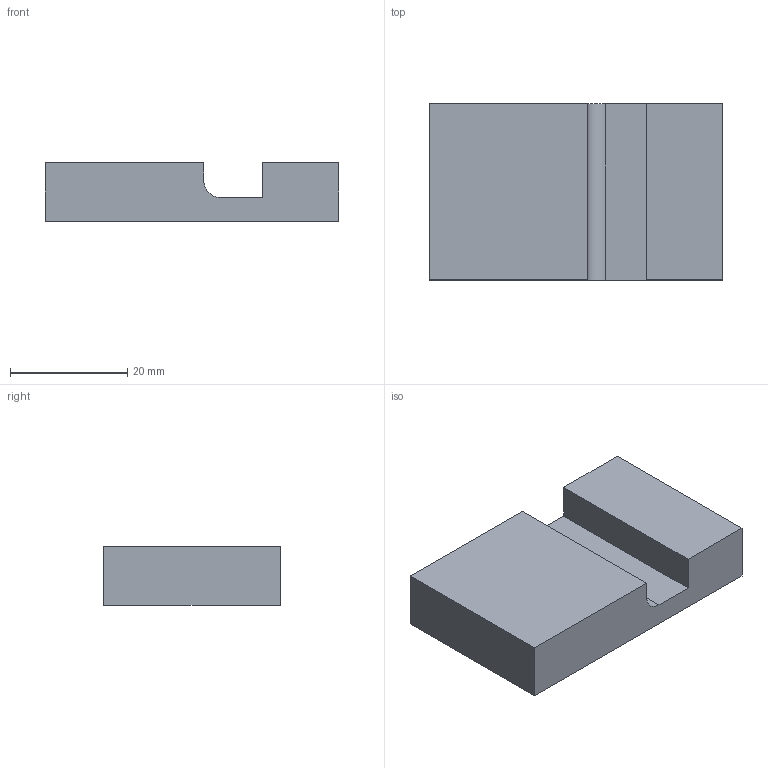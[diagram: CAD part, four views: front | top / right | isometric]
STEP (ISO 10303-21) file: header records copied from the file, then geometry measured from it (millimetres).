
FILE_DESCRIPTION(('FreeCAD Model'),'2;1');
FILE_NAME('/home/alexandre/Bureau/Cours-FreeCAD/Exercices/Exo-7.step', '2016-05-29T16:20:44',('Almisuifre'),(''), 'Open CASCADE STEP processor 6.8','FreeCAD','Unknown');
FILE_SCHEMA(('AUTOMOTIVE_DESIGN_CC2 { 1 2 10303 214 -1 1 5 4 }'));
Length unit declared in the file: millimetre
Products named in the file (2): ASSEMBLY; Cut
Assembly tree (1 placements, depth 2):
  ASSEMBLY
    Cut
Bounding box: 50 x 30 x 10 mm (x, y, z)
Volume: 13257.9 mm3; surface area: 4805.2 mm2
Topology: 1 solids, 1 shells, 11 faces, 27 edges, 18 vertices
Faces by surface type: plane 10, cylinder 1
Entity records: 700 total; most frequent: CARTESIAN_POINT 134, DIRECTION 92, LINE 61, VECTOR 61, ORIENTED_EDGE 54, PCURVE 54, DEFINITIONAL_REPRESENTATION 54, EDGE_CURVE 27
